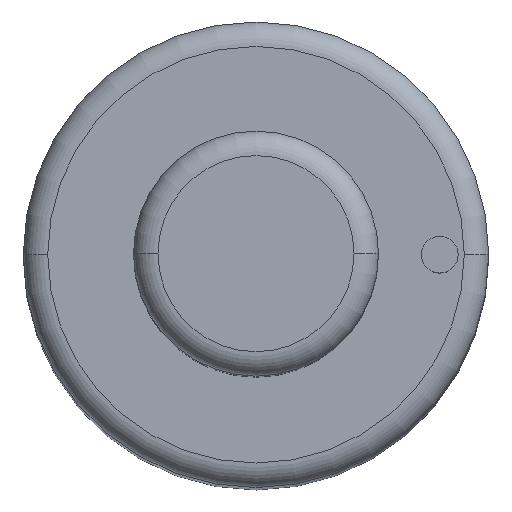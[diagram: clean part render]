
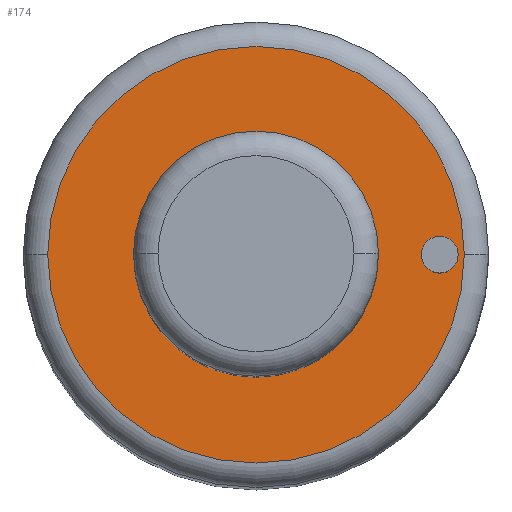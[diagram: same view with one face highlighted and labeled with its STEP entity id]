
A CAD part, top view. The second image highlights one B-rep face of the part: STEP entity #174.
In plain terms, the highlighted planar face has unit normal (0, 0, 1).
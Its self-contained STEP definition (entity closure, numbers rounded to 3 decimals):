
#99=FACE_BOUND('',#225,.T.);
#100=FACE_BOUND('',#226,.T.);
#101=FACE_BOUND('',#227,.T.);
#174=ADVANCED_FACE('',(#99,#100,#101),#180,.T.);
#180=PLANE('',#475);
#225=EDGE_LOOP('',(#307,#308));
#226=EDGE_LOOP('',(#309,#310));
#227=EDGE_LOOP('',(#311,#312));
#307=ORIENTED_EDGE('',*,*,#367,.F.);
#308=ORIENTED_EDGE('',*,*,#368,.F.);
#309=ORIENTED_EDGE('',*,*,#390,.F.);
#310=ORIENTED_EDGE('',*,*,#391,.F.);
#311=ORIENTED_EDGE('',*,*,#363,.T.);
#312=ORIENTED_EDGE('',*,*,#361,.T.);
#329=VERTEX_POINT('',#630);
#330=VERTEX_POINT('',#632);
#331=VERTEX_POINT('',#638);
#334=VERTEX_POINT('',#643);
#346=VERTEX_POINT('',#692);
#347=VERTEX_POINT('',#693);
#361=EDGE_CURVE('',#330,#329,#404,.T.);
#363=EDGE_CURVE('',#329,#330,#405,.T.);
#367=EDGE_CURVE('',#334,#331,#409,.T.);
#368=EDGE_CURVE('',#331,#334,#410,.T.);
#390=EDGE_CURVE('',#346,#347,#422,.T.);
#391=EDGE_CURVE('',#347,#346,#423,.T.);
#404=CIRCLE('',#440,5.);
#405=CIRCLE('',#442,5.);
#409=CIRCLE('',#447,8.5);
#410=CIRCLE('',#449,8.5);
#422=CIRCLE('',#473,0.75);
#423=CIRCLE('',#474,0.75);
#440=AXIS2_PLACEMENT_3D('',#631,#512,#513);
#442=AXIS2_PLACEMENT_3D('',#635,#517,#518);
#447=AXIS2_PLACEMENT_3D('',#644,#527,#528);
#449=AXIS2_PLACEMENT_3D('',#646,#531,#532);
#473=AXIS2_PLACEMENT_3D('',#691,#589,#590);
#474=AXIS2_PLACEMENT_3D('',#694,#591,#592);
#475=AXIS2_PLACEMENT_3D('',#695,#593,#594);
#512=DIRECTION('',(0.,0.,-1.));
#513=DIRECTION('',(0.,1.,0.));
#517=DIRECTION('',(0.,0.,-1.));
#518=DIRECTION('',(0.,-1.,0.));
#527=DIRECTION('',(0.,0.,-1.));
#528=DIRECTION('',(0.,1.,0.));
#531=DIRECTION('',(0.,0.,-1.));
#532=DIRECTION('',(0.,-1.,0.));
#589=DIRECTION('',(0.,0.,1.));
#590=DIRECTION('',(0.,1.,0.));
#591=DIRECTION('',(0.,0.,1.));
#592=DIRECTION('',(0.,-1.,0.));
#593=DIRECTION('',(0.,0.,1.));
#594=DIRECTION('',(0.,-1.,0.));
#630=CARTESIAN_POINT('',(-5.,0.,59.));
#631=CARTESIAN_POINT('',(0.,0.,59.));
#632=CARTESIAN_POINT('',(5.,0.,59.));
#635=CARTESIAN_POINT('',(0.,0.,59.));
#638=CARTESIAN_POINT('',(-8.5,0.,59.));
#643=CARTESIAN_POINT('',(8.5,0.,59.));
#644=CARTESIAN_POINT('',(0.,0.,59.));
#646=CARTESIAN_POINT('',(0.,0.,59.));
#691=CARTESIAN_POINT('',(7.5,0.,59.));
#692=CARTESIAN_POINT('',(6.75,0.,59.));
#693=CARTESIAN_POINT('',(8.25,0.,59.));
#694=CARTESIAN_POINT('',(7.5,0.,59.));
#695=CARTESIAN_POINT('',(0.,0.,59.));
